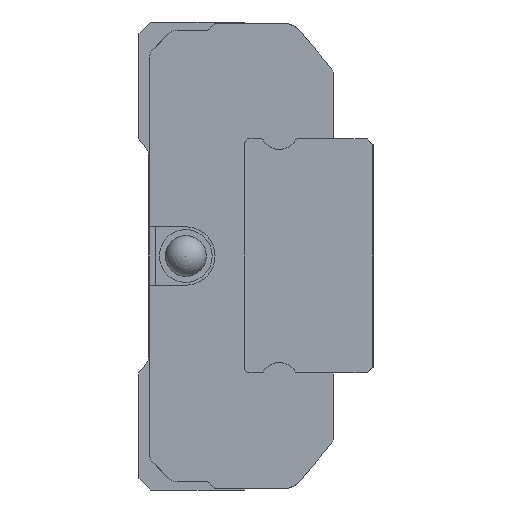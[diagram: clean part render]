
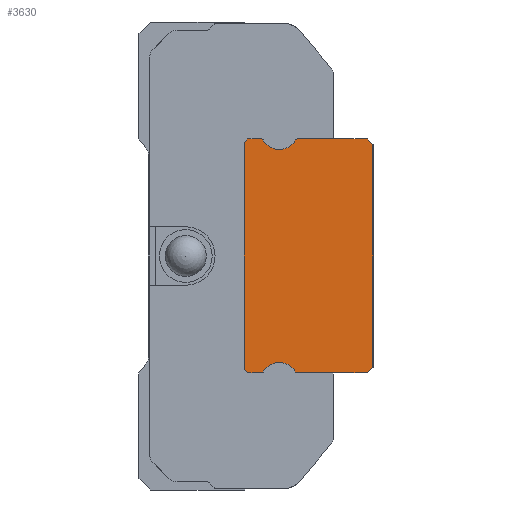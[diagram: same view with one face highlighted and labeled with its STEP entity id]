
A CAD part, left-side view. The second image highlights one B-rep face of the part: STEP entity #3630.
In plain terms, the highlighted planar face has unit normal (-1, 0, 0).
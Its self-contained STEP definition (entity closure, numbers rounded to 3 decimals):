
#65=CIRCLE('',#3862,0.15);
#67=CIRCLE('',#3865,1.6);
#69=CIRCLE('',#3868,0.15);
#75=CIRCLE('',#3880,0.15);
#77=CIRCLE('',#3883,1.6);
#79=CIRCLE('',#3886,0.15);
#380=ORIENTED_EDGE('',*,*,#1356,.F.);
#381=ORIENTED_EDGE('',*,*,#1410,.F.);
#382=ORIENTED_EDGE('',*,*,#1403,.F.);
#383=ORIENTED_EDGE('',*,*,#1400,.F.);
#384=ORIENTED_EDGE('',*,*,#1397,.F.);
#385=ORIENTED_EDGE('',*,*,#1394,.T.);
#386=ORIENTED_EDGE('',*,*,#1391,.F.);
#387=ORIENTED_EDGE('',*,*,#1388,.F.);
#388=ORIENTED_EDGE('',*,*,#1385,.F.);
#389=ORIENTED_EDGE('',*,*,#1382,.F.);
#390=ORIENTED_EDGE('',*,*,#1375,.F.);
#391=ORIENTED_EDGE('',*,*,#1372,.F.);
#392=ORIENTED_EDGE('',*,*,#1369,.F.);
#393=ORIENTED_EDGE('',*,*,#1366,.T.);
#394=ORIENTED_EDGE('',*,*,#1363,.F.);
#395=ORIENTED_EDGE('',*,*,#1360,.F.);
#1356=EDGE_CURVE('',#1888,#1889,#2254,.T.);
#1360=EDGE_CURVE('',#1889,#1892,#2258,.T.);
#1363=EDGE_CURVE('',#1892,#1894,#65,.T.);
#1366=EDGE_CURVE('',#1896,#1894,#67,.T.);
#1369=EDGE_CURVE('',#1896,#1898,#69,.T.);
#1372=EDGE_CURVE('',#1898,#1900,#2264,.T.);
#1375=EDGE_CURVE('',#1900,#1902,#2267,.T.);
#1382=EDGE_CURVE('',#1902,#1908,#2270,.T.);
#1385=EDGE_CURVE('',#1908,#1910,#2273,.T.);
#1388=EDGE_CURVE('',#1910,#1912,#2276,.T.);
#1391=EDGE_CURVE('',#1912,#1914,#75,.T.);
#1394=EDGE_CURVE('',#1916,#1914,#77,.T.);
#1397=EDGE_CURVE('',#1916,#1918,#79,.T.);
#1400=EDGE_CURVE('',#1918,#1920,#2282,.T.);
#1403=EDGE_CURVE('',#1920,#1922,#2285,.T.);
#1410=EDGE_CURVE('',#1922,#1888,#2288,.T.);
#1888=VERTEX_POINT('',#5364);
#1889=VERTEX_POINT('',#5365);
#1892=VERTEX_POINT('',#5373);
#1894=VERTEX_POINT('',#5379);
#1896=VERTEX_POINT('',#5385);
#1898=VERTEX_POINT('',#5391);
#1900=VERTEX_POINT('',#5397);
#1902=VERTEX_POINT('',#5403);
#1908=VERTEX_POINT('',#5417);
#1910=VERTEX_POINT('',#5423);
#1912=VERTEX_POINT('',#5429);
#1914=VERTEX_POINT('',#5435);
#1916=VERTEX_POINT('',#5441);
#1918=VERTEX_POINT('',#5447);
#1920=VERTEX_POINT('',#5453);
#1922=VERTEX_POINT('',#5459);
#2254=LINE('',#5363,#2620);
#2258=LINE('',#5372,#2624);
#2264=LINE('',#5396,#2630);
#2267=LINE('',#5402,#2633);
#2270=LINE('',#5416,#2636);
#2273=LINE('',#5422,#2639);
#2276=LINE('',#5428,#2642);
#2282=LINE('',#5452,#2648);
#2285=LINE('',#5458,#2651);
#2288=LINE('',#5472,#2654);
#2620=VECTOR('',#4241,1000.);
#2624=VECTOR('',#4247,1000.);
#2630=VECTOR('',#4273,1000.);
#2633=VECTOR('',#4278,1000.);
#2636=VECTOR('',#4291,1000.);
#2639=VECTOR('',#4296,1000.);
#2642=VECTOR('',#4301,1000.);
#2648=VECTOR('',#4327,1000.);
#2651=VECTOR('',#4332,1000.);
#2654=VECTOR('',#4345,1000.);
#3011=EDGE_LOOP('',(#380,#381,#382,#383,#384,#385,#386,#387,#388,#389,#390,
#391,#392,#393,#394,#395));
#3261=FACE_BOUND('',#3011,.T.);
#3501=PLANE('',#3896);
#3630=ADVANCED_FACE('',(#3261),#3501,.F.);
#3862=AXIS2_PLACEMENT_3D('',#5378,#4252,#4253);
#3865=AXIS2_PLACEMENT_3D('',#5384,#4259,#4260);
#3868=AXIS2_PLACEMENT_3D('',#5390,#4266,#4267);
#3880=AXIS2_PLACEMENT_3D('',#5434,#4306,#4307);
#3883=AXIS2_PLACEMENT_3D('',#5440,#4313,#4314);
#3886=AXIS2_PLACEMENT_3D('',#5446,#4320,#4321);
#3896=AXIS2_PLACEMENT_3D('',#5475,#4349,#4350);
#4241=DIRECTION('',(0.,-0.707,0.707));
#4247=DIRECTION('',(0.,-1.,0.));
#4252=DIRECTION('',(1.,0.,0.));
#4253=DIRECTION('',(0.,0.,-1.));
#4259=DIRECTION('',(1.,0.,0.));
#4260=DIRECTION('',(0.,0.,-1.));
#4266=DIRECTION('',(1.,0.,0.));
#4267=DIRECTION('',(0.,0.,-1.));
#4273=DIRECTION('',(0.,-1.,0.));
#4278=DIRECTION('',(0.,-0.707,-0.707));
#4291=DIRECTION('',(0.,0.,-1.));
#4296=DIRECTION('',(0.,0.707,-0.707));
#4301=DIRECTION('',(0.,1.,0.));
#4306=DIRECTION('',(1.,0.,0.));
#4307=DIRECTION('',(0.,0.,-1.));
#4313=DIRECTION('',(1.,0.,0.));
#4314=DIRECTION('',(0.,0.,-1.));
#4320=DIRECTION('',(1.,0.,0.));
#4321=DIRECTION('',(0.,0.,-1.));
#4327=DIRECTION('',(0.,1.,0.));
#4332=DIRECTION('',(0.,0.707,0.707));
#4345=DIRECTION('',(0.,0.,1.));
#4349=DIRECTION('',(1.,0.,0.));
#4350=DIRECTION('',(0.,0.,-1.));
#5363=CARTESIAN_POINT('',(-20.,11.,9.7));
#5364=CARTESIAN_POINT('',(-20.,11.,9.7));
#5365=CARTESIAN_POINT('',(-20.,10.7,10.));
#5372=CARTESIAN_POINT('',(-20.,10.7,10.));
#5373=CARTESIAN_POINT('',(-20.,9.53,10.));
#5378=CARTESIAN_POINT('',(-20.,9.53,9.85));
#5379=CARTESIAN_POINT('',(-20.,9.399,9.923));
#5384=CARTESIAN_POINT('',(-20.,8.,10.7));
#5385=CARTESIAN_POINT('',(-20.,6.601,9.923));
#5390=CARTESIAN_POINT('',(-20.,6.47,9.85));
#5391=CARTESIAN_POINT('',(-20.,6.47,10.));
#5396=CARTESIAN_POINT('',(-20.,6.47,10.));
#5397=CARTESIAN_POINT('',(-20.,0.5,10.));
#5402=CARTESIAN_POINT('',(-20.,0.5,10.));
#5403=CARTESIAN_POINT('',(-20.,0.,9.5));
#5416=CARTESIAN_POINT('',(-20.,0.,9.5));
#5417=CARTESIAN_POINT('',(-20.,0.,-9.5));
#5422=CARTESIAN_POINT('',(-20.,0.,-9.5));
#5423=CARTESIAN_POINT('',(-20.,0.5,-10.));
#5428=CARTESIAN_POINT('',(-20.,0.5,-10.));
#5429=CARTESIAN_POINT('',(-20.,6.47,-10.));
#5434=CARTESIAN_POINT('',(-20.,6.47,-9.85));
#5435=CARTESIAN_POINT('',(-20.,6.601,-9.923));
#5440=CARTESIAN_POINT('',(-20.,8.,-10.7));
#5441=CARTESIAN_POINT('',(-20.,9.399,-9.923));
#5446=CARTESIAN_POINT('',(-20.,9.53,-9.85));
#5447=CARTESIAN_POINT('',(-20.,9.53,-10.));
#5452=CARTESIAN_POINT('',(-20.,9.53,-10.));
#5453=CARTESIAN_POINT('',(-20.,10.7,-10.));
#5458=CARTESIAN_POINT('',(-20.,10.7,-10.));
#5459=CARTESIAN_POINT('',(-20.,11.,-9.7));
#5472=CARTESIAN_POINT('',(-20.,11.,-9.7));
#5475=CARTESIAN_POINT('',(-20.,9.53,9.85));
